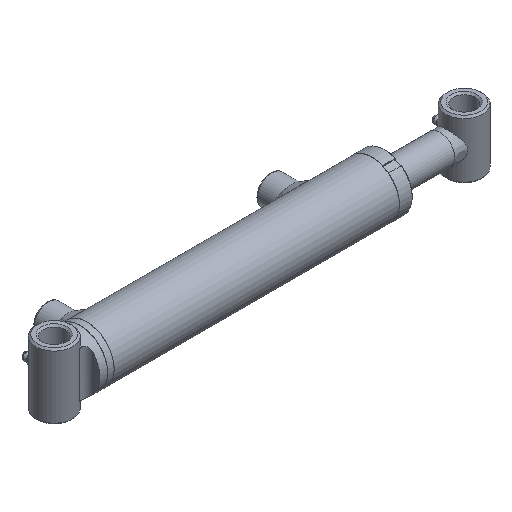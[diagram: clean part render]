
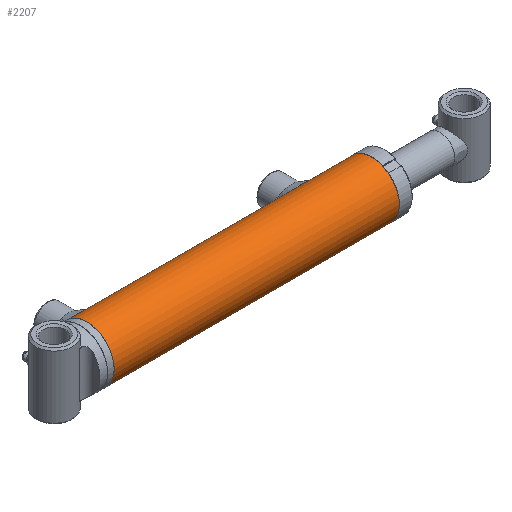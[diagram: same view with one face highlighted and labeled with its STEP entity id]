
A CAD part, isometric view. The second image highlights one B-rep face of the part: STEP entity #2207.
In plain terms, the highlighted cylindrical face has radius 23.812 mm (diameter 47.625 mm), a full revolution.
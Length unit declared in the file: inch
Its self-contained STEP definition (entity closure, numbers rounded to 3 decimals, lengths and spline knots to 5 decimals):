
#405=FACE_BOUND('',#715,.T.);
#406=FACE_BOUND('',#716,.T.);
#407=FACE_BOUND('',#717,.T.);
#527=FACE_OUTER_BOUND('',#714,.T.);
#714=EDGE_LOOP('',(#1695));
#715=EDGE_LOOP('',(#1696));
#716=EDGE_LOOP('',(#1697));
#717=EDGE_LOOP('',(#1698));
#951=CIRCLE('',#2387,0.9375);
#955=CIRCLE('',#2395,0.9375);
#1088=B_SPLINE_CURVE_WITH_KNOTS('',3,(#4759,#4760,#4761,#4762,#4763,#4764,
#4765,#4766,#4767,#4768,#4769,#4770,#4771,#4772,#4773,#4774,#4775,#4776,
#4777,#4778,#4779,#4780,#4781,#4782,#4783,#4784,#4785,#4786,#4787,#4788,
#4789,#4790,#4791,#4792),.UNSPECIFIED.,.T.,.F.,(4,2,2,2,2,2,2,2,2,2,2,2,
2,2,2,2,4),(0.,0.18896,0.37791,0.56686,0.7558,
0.94474,1.13369,1.32264,1.5116,1.70055,
1.88951,2.07845,2.2674,2.45634,2.64528,
2.83424,3.0232),.UNSPECIFIED.);
#1090=B_SPLINE_CURVE_WITH_KNOTS('',3,(#4932,#4933,#4934,#4935,#4936,#4937,
#4938,#4939,#4940,#4941,#4942,#4943,#4944,#4945,#4946,#4947,#4948,#4949,
#4950,#4951,#4952,#4953,#4954,#4955,#4956,#4957,#4958,#4959,#4960,#4961,
#4962,#4963,#4964,#4965),.UNSPECIFIED.,.T.,.F.,(4,2,2,2,2,2,2,2,2,2,2,2,
2,2,2,2,4),(0.,0.18896,0.37791,0.56686,0.7558,
0.94474,1.13369,1.32264,1.5116,1.70055,
1.88951,2.07845,2.2674,2.45634,2.64528,
2.83424,3.0232),.UNSPECIFIED.);
#1144=VERTEX_POINT('',#4758);
#1146=VERTEX_POINT('',#4931);
#1150=VERTEX_POINT('',#4975);
#1154=VERTEX_POINT('',#4987);
#1363=EDGE_CURVE('',#1144,#1144,#1088,.T.);
#1366=EDGE_CURVE('',#1146,#1146,#1090,.T.);
#1370=EDGE_CURVE('',#1150,#1150,#951,.T.);
#1374=EDGE_CURVE('',#1154,#1154,#955,.T.);
#1695=ORIENTED_EDGE('',*,*,#1374,.T.);
#1696=ORIENTED_EDGE('',*,*,#1363,.T.);
#1697=ORIENTED_EDGE('',*,*,#1366,.T.);
#1698=ORIENTED_EDGE('',*,*,#1370,.F.);
#2138=CYLINDRICAL_SURFACE('',#2397,0.9375);
#2207=ADVANCED_FACE('',(#527,#405,#406,#407),#2138,.T.);
#2387=AXIS2_PLACEMENT_3D('',#4976,#2732,#2733);
#2395=AXIS2_PLACEMENT_3D('',#4988,#2748,#2749);
#2397=AXIS2_PLACEMENT_3D('',#4990,#2752,#2753);
#2732=DIRECTION('center_axis',(1.,0.,0.));
#2733=DIRECTION('ref_axis',(0.,-1.,0.));
#2748=DIRECTION('center_axis',(1.,0.,0.));
#2749=DIRECTION('ref_axis',(0.,-1.,0.));
#2752=DIRECTION('center_axis',(1.,0.,0.));
#2753=DIRECTION('ref_axis',(0.,-1.,0.));
#4758=CARTESIAN_POINT('',(3.22195,0.9166,-0.19685));
#4759=CARTESIAN_POINT('Ctrl Pts',(3.22195,0.9166,-0.19685));
#4760=CARTESIAN_POINT('Ctrl Pts',(3.24675,0.9166,-0.19685));
#4761=CARTESIAN_POINT('Ctrl Pts',(3.27314,0.91771,-0.19188));
#4762=CARTESIAN_POINT('Ctrl Pts',(3.32162,0.92169,-0.17177));
#4763=CARTESIAN_POINT('Ctrl Pts',(3.34371,0.92449,-0.15663));
#4764=CARTESIAN_POINT('Ctrl Pts',(3.37858,0.92973,-0.12176));
#4765=CARTESIAN_POINT('Ctrl Pts',(3.39372,0.9325,-0.09967));
#4766=CARTESIAN_POINT('Ctrl Pts',(3.41383,0.93642,-0.05119));
#4767=CARTESIAN_POINT('Ctrl Pts',(3.4188,0.9375,-0.0248));
#4768=CARTESIAN_POINT('Ctrl Pts',(3.4188,0.9375,0.0248));
#4769=CARTESIAN_POINT('Ctrl Pts',(3.41383,0.93642,0.05119));
#4770=CARTESIAN_POINT('Ctrl Pts',(3.39372,0.9325,0.09967));
#4771=CARTESIAN_POINT('Ctrl Pts',(3.37858,0.92973,0.12176));
#4772=CARTESIAN_POINT('Ctrl Pts',(3.34371,0.92449,0.15663));
#4773=CARTESIAN_POINT('Ctrl Pts',(3.32162,0.92169,0.17177));
#4774=CARTESIAN_POINT('Ctrl Pts',(3.27314,0.91771,0.19188));
#4775=CARTESIAN_POINT('Ctrl Pts',(3.24675,0.9166,0.19685));
#4776=CARTESIAN_POINT('Ctrl Pts',(3.19715,0.9166,0.19685));
#4777=CARTESIAN_POINT('Ctrl Pts',(3.17075,0.91771,0.19188));
#4778=CARTESIAN_POINT('Ctrl Pts',(3.12228,0.92169,0.17177));
#4779=CARTESIAN_POINT('Ctrl Pts',(3.10019,0.92449,0.15663));
#4780=CARTESIAN_POINT('Ctrl Pts',(3.06532,0.92973,0.12176));
#4781=CARTESIAN_POINT('Ctrl Pts',(3.05018,0.9325,0.09967));
#4782=CARTESIAN_POINT('Ctrl Pts',(3.03007,0.93642,0.05119));
#4783=CARTESIAN_POINT('Ctrl Pts',(3.0251,0.9375,0.0248));
#4784=CARTESIAN_POINT('Ctrl Pts',(3.0251,0.9375,-0.0248));
#4785=CARTESIAN_POINT('Ctrl Pts',(3.03007,0.93642,-0.05119));
#4786=CARTESIAN_POINT('Ctrl Pts',(3.05018,0.9325,-0.09967));
#4787=CARTESIAN_POINT('Ctrl Pts',(3.06532,0.92973,-0.12176));
#4788=CARTESIAN_POINT('Ctrl Pts',(3.10019,0.92449,-0.15663));
#4789=CARTESIAN_POINT('Ctrl Pts',(3.12228,0.92169,-0.17177));
#4790=CARTESIAN_POINT('Ctrl Pts',(3.17075,0.91771,-0.19188));
#4791=CARTESIAN_POINT('Ctrl Pts',(3.19715,0.9166,-0.19685));
#4792=CARTESIAN_POINT('Ctrl Pts',(3.22195,0.9166,-0.19685));
#4931=CARTESIAN_POINT('',(-4.40305,0.9166,-0.19685));
#4932=CARTESIAN_POINT('Ctrl Pts',(-4.40305,0.9166,-0.19685));
#4933=CARTESIAN_POINT('Ctrl Pts',(-4.37825,0.9166,-0.19685));
#4934=CARTESIAN_POINT('Ctrl Pts',(-4.35186,0.91771,-0.19188));
#4935=CARTESIAN_POINT('Ctrl Pts',(-4.30338,0.92169,-0.17177));
#4936=CARTESIAN_POINT('Ctrl Pts',(-4.28129,0.92449,-0.15663));
#4937=CARTESIAN_POINT('Ctrl Pts',(-4.24642,0.92973,-0.12176));
#4938=CARTESIAN_POINT('Ctrl Pts',(-4.23128,0.9325,-0.09967));
#4939=CARTESIAN_POINT('Ctrl Pts',(-4.21117,0.93642,-0.05119));
#4940=CARTESIAN_POINT('Ctrl Pts',(-4.2062,0.9375,-0.0248));
#4941=CARTESIAN_POINT('Ctrl Pts',(-4.2062,0.9375,0.0248));
#4942=CARTESIAN_POINT('Ctrl Pts',(-4.21117,0.93642,0.05119));
#4943=CARTESIAN_POINT('Ctrl Pts',(-4.23128,0.9325,0.09967));
#4944=CARTESIAN_POINT('Ctrl Pts',(-4.24642,0.92973,0.12176));
#4945=CARTESIAN_POINT('Ctrl Pts',(-4.28129,0.92449,0.15663));
#4946=CARTESIAN_POINT('Ctrl Pts',(-4.30338,0.92169,0.17177));
#4947=CARTESIAN_POINT('Ctrl Pts',(-4.35186,0.91771,0.19188));
#4948=CARTESIAN_POINT('Ctrl Pts',(-4.37825,0.9166,0.19685));
#4949=CARTESIAN_POINT('Ctrl Pts',(-4.42785,0.9166,0.19685));
#4950=CARTESIAN_POINT('Ctrl Pts',(-4.45425,0.91771,0.19188));
#4951=CARTESIAN_POINT('Ctrl Pts',(-4.50272,0.92169,0.17177));
#4952=CARTESIAN_POINT('Ctrl Pts',(-4.52481,0.92449,0.15663));
#4953=CARTESIAN_POINT('Ctrl Pts',(-4.55968,0.92973,0.12176));
#4954=CARTESIAN_POINT('Ctrl Pts',(-4.57482,0.9325,0.09967));
#4955=CARTESIAN_POINT('Ctrl Pts',(-4.59493,0.93642,0.05119));
#4956=CARTESIAN_POINT('Ctrl Pts',(-4.5999,0.9375,0.0248));
#4957=CARTESIAN_POINT('Ctrl Pts',(-4.5999,0.9375,-0.0248));
#4958=CARTESIAN_POINT('Ctrl Pts',(-4.59493,0.93642,-0.05119));
#4959=CARTESIAN_POINT('Ctrl Pts',(-4.57482,0.9325,-0.09967));
#4960=CARTESIAN_POINT('Ctrl Pts',(-4.55968,0.92973,-0.12176));
#4961=CARTESIAN_POINT('Ctrl Pts',(-4.52481,0.92449,-0.15663));
#4962=CARTESIAN_POINT('Ctrl Pts',(-4.50272,0.92169,-0.17177));
#4963=CARTESIAN_POINT('Ctrl Pts',(-4.45425,0.91771,-0.19188));
#4964=CARTESIAN_POINT('Ctrl Pts',(-4.42785,0.9166,-0.19685));
#4965=CARTESIAN_POINT('Ctrl Pts',(-4.40305,0.9166,-0.19685));
#4975=CARTESIAN_POINT('',(4.95423,0.9375,0.));
#4976=CARTESIAN_POINT('Origin',(4.95423,0.,0.));
#4987=CARTESIAN_POINT('',(-4.78445,0.9375,0.));
#4988=CARTESIAN_POINT('Origin',(-4.78445,0.,0.));
#4990=CARTESIAN_POINT('Origin',(0.,0.,0.));
